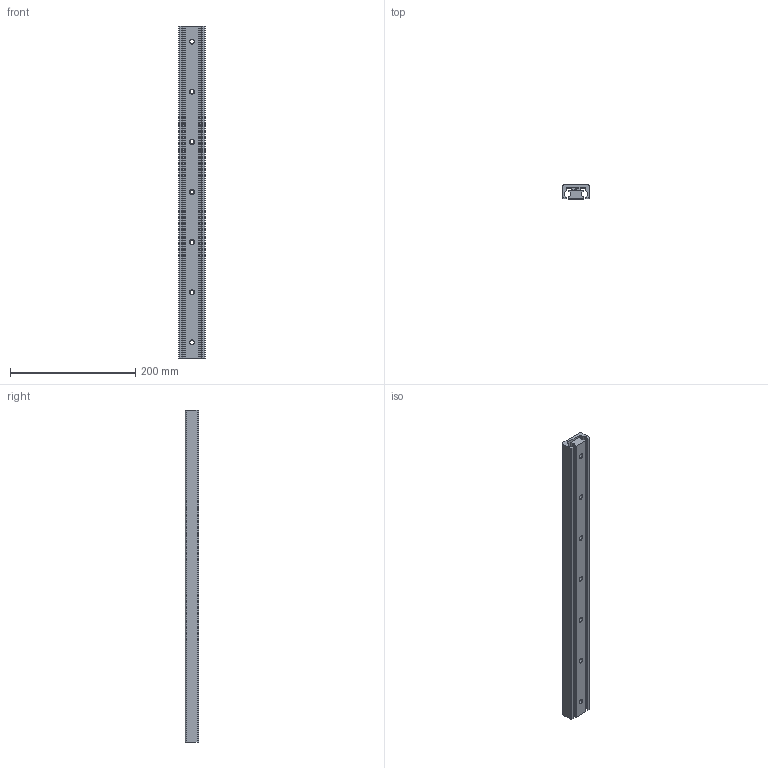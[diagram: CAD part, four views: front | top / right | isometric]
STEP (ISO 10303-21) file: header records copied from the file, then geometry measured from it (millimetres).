
FILE_DESCRIPTION(('STEP AP214'),'1');
FILE_NAME('rail_asn43-530_00.stp','2017-06-06T10:17:18',('TraceParts'),('TraceParts S.A.'),'Spatial InterOp 3D',' ',' ');
FILE_SCHEMA(('automotive_design'));
Length unit declared in the file: millimetre
Products named in the file (2): rail_asn43-530_00_1; rail_asn43-530_00_2
Bounding box: 43 x 22.01 x 530 mm (x, y, z)
Volume: 322693.9 mm3; surface area: 125814.5 mm2
Topology: 2 solids, 2 shells, 147 faces, 372 edges, 234 vertices
Faces by surface type: cylinder 59, plane 46, cone 42
Entity records: 4516 total; most frequent: DIRECTION 830, CARTESIAN_POINT 755, ORIENTED_EDGE 744, EDGE_CURVE 372, AXIS2_PLACEMENT_3D 309, VERTEX_POINT 234, LINE 212, VECTOR 212
